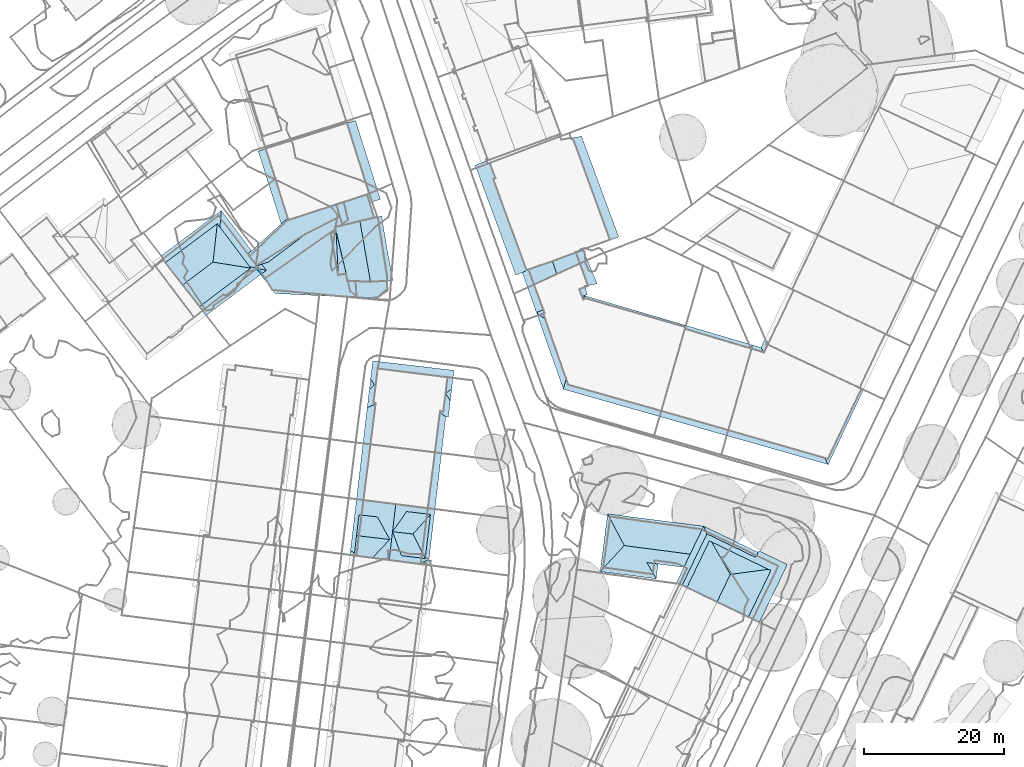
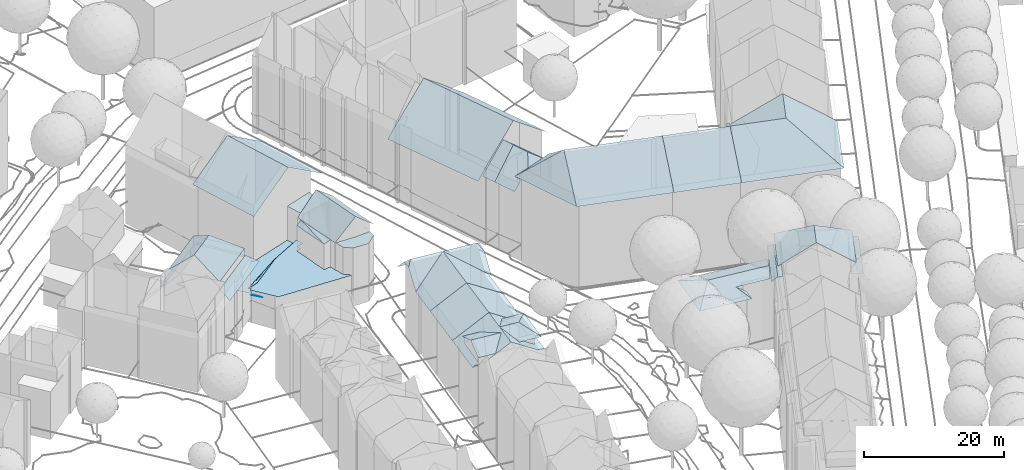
# Not in any storey, part 74 of 477: 21 roofs.
"""IFC4 building model written with IfcOpenShell, lengths in metres."""

from ifc_helpers import new_model, si_unit, frame, origin_with_axes, place, context, subcontext, project, spatial, polygons, element, save


model = new_model("IFC4")

# Units and contexts
model_context = context("Model", 3, precision=1e-05, world=origin_with_axes())
body_context = subcontext(model_context, "Body", "Model", "MODEL_VIEW")
ifc_project = project(units=[si_unit("AREAUNIT", "SQUARE_METRE"), si_unit("LENGTHUNIT", "METRE")], contexts=[model_context])

# Sites, building
site_1_placement = place(None, origin_with_axes())
site_1 = spatial("IfcSite", under=ifc_project, at=site_1_placement, Name="Topoexport Site")
site_2_placement = place(site_1_placement, origin_with_axes())
site_2 = spatial("IfcSite", under=site_1, at=site_2_placement, Name="TPX_BUILDINGS")
building_1_placement = place(site_2_placement, frame((497.3297320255, 81.7703160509, 498.9665), z_axis=(0.0, 0.0, 1.0), x_axis=(1.0, 0.0, 0.0)))
building_1 = spatial("IfcBuilding", under=site_2, at=building_1_placement, Name="Building 13", CompositionType="ELEMENT")

# Roofs
roof_1_placement = place(None, frame((497.3297320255, 81.7703160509, 498.9665), z_axis=(0.0, 0.0, 1.0), x_axis=(1.0, 0.0, 0.0)))
element("IfcRoof", 1, at=roof_1_placement, inside=building_1, Name="Roof 0", context=body_context, shape_type="Tessellation", body=[
    polygons([(7.0950000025, -0.8056999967, 11.5669), (2.9840000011, 3.1582000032, 13.1607), (6.2120000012, 0.7344000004, 12.2968), (7.5419999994, -1.5858999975, 11.1979), (6.9140000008, -0.931599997, 11.4689), (7.8139999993, 0.5263999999, 12.2968), (7.2840000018, 0.5957000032, 12.2968), (7.8139999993, 0.5263999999, 11.1979), (7.2840000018, 0.5957000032, 11.5619), (6.5040000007, 0.6963, 12.0968), (-0.4529999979, -0.5546999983, 11.1979), (0.0540000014, -0.0067999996, 11.4879), (0.6110000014, 7.6963, 11.1979), (0.9920000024, 6.9688000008, 11.5129), (14.319000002, 5.9297000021, 11.1979), (12.9900000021, 5.6045000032, 11.4279), (12.3940000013, 1.9346000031, 13.1607), (11.5140000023, 0.1094000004, 12.3228), (11.4880000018, 0.0537, 12.2968)], [[[3, 2, 1]], [[5, 4, 1]], [[5, 1, 2]], [[7, 6, 2]], [[2, 3, 7]], [[4, 8, 1]], [[1, 8, 9]], [[10, 3, 1]], [[10, 1, 9]], [[12, 11, 5]], [[12, 5, 2]], [[5, 11, 4]], [[14, 13, 12]], [[12, 2, 14]], [[11, 12, 13]], [[16, 15, 13]], [[14, 2, 16]], [[13, 14, 16]], [[16, 2, 17]], [[16, 17, 15]], [[19, 18, 2]], [[2, 6, 19]], [[2, 18, 17]]]),
])
roof_2_placement = place(None, frame((497.3297320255, 81.7703160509, 498.9665), z_axis=(0.0, 0.0, 1.0), x_axis=(1.0, 0.0, 0.0)))
element("IfcRoof", 2, at=roof_2_placement, inside=building_1, Name="Roof 1", context=body_context, shape_type="Tessellation", body=[
    polygons([(21.8320000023, 1.6797000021, 14.0666), (21.7360000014, 1.4785000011, 14.2666), (14.7829999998, 4.8262000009, 14.2666), (14.6390000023, 5.1670000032, 14.0466), (21.8530000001, 1.7226999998, 14.0236), (22.0789999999, 2.1914000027, 13.5567), (14.319000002, 5.9297000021, 13.5567), (15.1330000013, 3.8252000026, 14.2666), (11.9240000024, -2.8388999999, 14.2666), (11.2479999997, -2.5136999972, 14.2666), (22.2730000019, -7.8125, 14.2666), (20.6960000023, -7.0546999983, 14.2666), (23.9020000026, -0.3983999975, 14.2666), (22.1889999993, 2.4219000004, 14.2666), (26.2580000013, 0.4609000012, 14.2666), (10.9480000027, -2.369099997, 14.0036), (11.5160000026, 0.1104000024, 13.5567), (10.9070000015, -2.3632999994, 13.9726), (10.3610000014, -2.2861000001, 13.5567), (14.0810000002, 5.4346000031, 13.5567)], [[[3, 2, 1]], [[1, 5, 4]], [[6, 4, 5]], [[4, 6, 7]], [[3, 1, 4]], [[10, 9, 8]], [[10, 8, 3]], [[2, 3, 8]], [[13, 12, 11]], [[13, 14, 2]], [[15, 14, 13]], [[13, 2, 8]], [[13, 11, 15]], [[16, 10, 3]], [[19, 18, 17]], [[16, 4, 18]], [[4, 17, 18]], [[20, 17, 4]], [[7, 20, 4]], [[4, 16, 3]]]),
])
roof_3_placement = place(None, frame((497.3297320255, 81.7703160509, 498.9665), z_axis=(0.0, 0.0, 1.0), x_axis=(1.0, 0.0, 0.0)))
element("IfcRoof", 3, at=roof_3_placement, inside=building_1, Name="Roof 2", context=body_context, shape_type="Tessellation", body=[
    polygons([(23.5510000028, -0.2294999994, 16.8863), (21.3720000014, -7.3798999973, 16.1304), (20.6960000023, -7.0546999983, 16.6283), (18.1119999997, -0.9569999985, 19.927), (16.2129999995, -4.8993999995, 19.927), (24.9030000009, -0.0487999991, 16.1304), (11.2479999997, -2.5136999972, 16.1304), (14.7829999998, 4.8262000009, 16.1304), (15.4460000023, 3.6748000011, 16.8863), (11.9240000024, -2.8388999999, 16.6474), (21.7360000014, 1.4785000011, 16.1304), (21.0140000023, 0.9932000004, 16.8863)], [[[3, 2, 1]], [[5, 3, 4]], [[1, 4, 3]], [[6, 1, 2]], [[9, 8, 7]], [[4, 9, 10]], [[4, 10, 5]], [[10, 9, 7]], [[12, 11, 9]], [[9, 4, 12]], [[8, 9, 11]], [[12, 4, 1]], [[12, 6, 11]], [[6, 12, 1]]]),
])

# Building
building_2_placement = place(site_2_placement, frame((461.8007320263, 83.4783160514, 499.4055), z_axis=(0.0, 0.0, 1.0), x_axis=(1.0, 0.0, 0.0)))
building_2 = spatial("IfcBuilding", under=site_2, at=building_2_placement, Name="Building 54", CompositionType="ELEMENT")

# Roofs
roof_4_placement = place(None, frame((461.8007320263, 83.4783160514, 499.4055), z_axis=(0.0, 0.0, 1.0), x_axis=(1.0, 0.0, 0.0)))
element("IfcRoof", 4, at=roof_4_placement, inside=building_2, Name="Roof 0", context=body_context, shape_type="Tessellation", body=[
    polygons([(10.8610000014, 5.9033000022, 13.9566), (10.1209999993, -0.3915999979, 13.9566), (9.5089999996, 0.8262000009, 14.3076), (8.3709999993, 3.0938000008, 14.9615), (9.9910000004, 4.9209000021, 14.3076), (5.443, 3.438500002, 14.9525), (6.9670000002, 5.6055000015, 14.1996), (7.4580000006, 6.3037, 13.9566), (6.425999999, 0.7989000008, 14.1856), (6.7199999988, 0.0088, 13.9566)], [[[3, 2, 1]], [[5, 4, 3]], [[1, 5, 3]], [[7, 6, 1]], [[5, 6, 4]], [[7, 1, 8]], [[1, 6, 5]], [[6, 9, 4]], [[4, 9, 3]], [[10, 2, 3]], [[10, 3, 9]]]),
])
roof_5_placement = place(None, frame((461.8007320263, 83.4783160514, 499.4055), z_axis=(0.0, 0.0, 1.0), x_axis=(1.0, 0.0, 0.0)))
element("IfcRoof", 5, at=roof_5_placement, inside=building_2, Name="Roof 1", context=body_context, shape_type="Tessellation", body=[
    polygons([(2.6339999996, -0.2421999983, 13.5367), (0.313000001, 2.8731000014, 14.7936), (5.0480000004, 2.3164000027, 14.7936), (0.0080000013, 0.0655000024, 13.5367), (-0.0170000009, 0.0683999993, 13.5367), (1.0560000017, 5.8027999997, 13.5367), (0.6620000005, 5.8487000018, 13.5367), (4.6330000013, 3.0742000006, 14.4976), (3.300999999, 5.5391000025, 13.5367), (4.6160000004, 7.4951000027, 14.1796), (5.9039999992, 7.3311000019, 14.9505), (5.443, 3.438500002, 14.9525), (1.0560000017, 5.8027999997, 12.1878), (0.2989999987, 8.0439999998, 11.5829), (1.3229999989, 7.9131000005, 12.1988), (-0.5590000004, 0.7412, 11.5829), (2.9679999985, 5.5780999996, 13.3367), (4.9730000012, -0.6435000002, 14.9465), (0.4750000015, 1.2061000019, 12.1638), (0.2300000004, 0.2237000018, 12.0838), (0.7069999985, -0.0918000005, 12.3868), (2.3000000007, -0.2040999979, 13.3367), (0.569000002, -0.0009999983, 12.2988), (0.3489999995, 0.2071000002, 12.1558), (7.300999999, 5.5664000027, 13.9996), (6.1099999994, 3.8740000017, 14.5876), (5.7749999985, 3.3993999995, 14.7536), (6.0560000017, 2.6504000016, 14.5336), (10.0289999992, 5.246100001, 12.3588), (8.4849999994, 5.4277999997, 13.2867), (11.4979999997, 6.6220999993, 11.5829), (10.6519999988, -0.5760999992, 11.5828), (6.4120000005, 1.7050999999, 14.2576), (6.7589999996, 0.759800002, 13.9856), (7.6070000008, 0.6572000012, 13.4747), (9.0280000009, -1.1699000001, 12.5048), (8.0520000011, 0.6055000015, 13.2077), (9.4640000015, 0.4405000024, 12.3588), (9.5230000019, -0.9912, 12.2248), (0.0080000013, 0.0655000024, 12.2988), (-0.6359999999, 0.0821000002, 12.3678), (0.0320000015, 0.2481000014, 12.0808), (10.9290000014, -1.4169999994, 12.5328), (10.2780000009, -1.3319999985, 12.5228), (11.0219999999, -0.6191000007, 11.5828), (2.6400000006, -0.2430999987, 13.3407), (2.6339999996, -0.2421999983, 13.3367), (4.9730000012, -0.6436999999, 14.7466)], [[[3, 2, 1]], [[1, 2, 4]], [[4, 2, 5]], [[7, 2, 6]], [[9, 2, 8]], [[6, 2, 9]], [[8, 2, 3]], [[12, 11, 10]], [[15, 14, 13]], [[13, 14, 16]], [[10, 15, 17]], [[13, 17, 15]], [[12, 8, 3]], [[8, 12, 9]], [[18, 3, 1]], [[12, 3, 18]], [[17, 9, 10]], [[12, 10, 9]], [[16, 20, 19]], [[19, 13, 16]], [[1, 22, 21]], [[1, 21, 18]], [[21, 22, 23]], [[20, 24, 19]], [[11, 26, 25]], [[26, 11, 12]], [[12, 27, 26]], [[27, 12, 28]], [[31, 30, 29]], [[31, 11, 30]], [[11, 25, 30]], [[31, 29, 32]], [[33, 28, 18]], [[35, 34, 18]], [[18, 34, 33]], [[35, 18, 36]], [[28, 12, 18]], [[38, 37, 36]], [[38, 39, 32]], [[39, 38, 36]], [[37, 35, 36]], [[38, 32, 29]], [[21, 23, 40]], [[21, 40, 41]], [[16, 42, 20]], [[16, 40, 42]], [[40, 16, 41]], [[44, 43, 32]], [[32, 43, 45]], [[39, 36, 44]], [[32, 39, 44]], [[48, 47, 46]]]),
])

# Building
building_3_placement = place(site_2_placement, frame((463.1237320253, 91.3914160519, 499.4055), z_axis=(0.0, 0.0, 1.0), x_axis=(1.0, 0.0, 0.0)))
building_3 = spatial("IfcBuilding", under=site_2, at=building_3_placement, Name="Building 55", CompositionType="ELEMENT")

# Roof
roof_6_placement = place(None, frame((463.1237320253, 91.3914160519, 499.4055), z_axis=(0.0, 0.0, 1.0), x_axis=(1.0, 0.0, 0.0)))
element("IfcRoof", 6, at=roof_6_placement, inside=building_3, Name="Roof 0", context=body_context, shape_type="Tessellation", body=[
    polygons([(4.5810000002, -0.5810000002, 14.9505), (1.6009999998, 7.875, 12.5998), (5.5230000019, 7.3867000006, 14.9476), (3.2930000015, -0.4179999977, 14.1796), (9.182, -1.1649999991, 12.1808), (10.1750000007, -1.2910000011, 11.5829), (10.1920000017, 6.8047000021, 12.1368), (11.1119999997, 6.6895000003, 11.5829), (-1.0240000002, 0.1308999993, 11.5829), (-0.0889999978, 8.0888999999, 11.5829), (0.0, 0.0, 12.1988), (1.0050000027, 7.9501999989, 12.2408), (0.756000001, 7.9824000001, 12.0408), (0.2460000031, 8.0459000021, 11.6729)], [[[3, 2, 1]], [[4, 1, 2]], [[5, 3, 1]], [[7, 5, 6]], [[7, 3, 5]], [[7, 6, 8]], [[11, 10, 9]], [[12, 11, 4]], [[12, 10, 11]], [[2, 12, 4]], [[14, 12, 13]]]),
])

# Building
building_4_placement = place(site_2_placement, frame((464.128732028, 99.3416160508, 499.4055), z_axis=(0.0, 0.0, 1.0), x_axis=(1.0, 0.0, 0.0)))
building_4 = spatial("IfcBuilding", under=site_2, at=building_4_placement, Name="Building 61", CompositionType="ELEMENT")

# Roof
roof_7_placement = place(None, frame((464.128732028, 99.3416160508, 499.4055), z_axis=(0.0, 0.0, 1.0), x_axis=(1.0, 0.0, 0.0)))
element("IfcRoof", 7, at=roof_7_placement, inside=building_4, Name="Roof 0", context=body_context, shape_type="Tessellation", body=[
    polygons([(10.7149999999, 7.3154000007, 14.9436), (11.3640000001, 6.2295000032, 13.9347), (5.5219999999, 7.9248000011, 14.9436), (9.9100000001, 4.568400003, 12.1058), (11.0899999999, 3.9072000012, 11.5829), (10.7190000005, 3.9502000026, 11.5829), (-0.0050000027, 9.3984000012, 14.1346), (11.568, 7.9678000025, 14.2026), (11.8779999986, 10.5986000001, 11.5829), (0.5119999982, 8.5137000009, 14.9436), (0.2949999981, 11.9600000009, 11.5829), (-0.1950000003, 7.7920000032, 14.1396), (0.7339999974, 5.8096000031, 12.2678), (-0.4910000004, 5.2675999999, 11.5829), (0.5969999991, -0.0741999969, 12.5998), (0.2229999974, 1.7637000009, 12.2498), (4.5179999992, -0.5625, 14.9476), (9.186999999, -1.1454999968, 12.1368), (10.106999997, -1.2606999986, 11.5829), (-1.0940000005, 0.1387000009, 11.5829), (0.0, 0.0, 12.2408)], [[[3, 2, 1]], [[2, 3, 4]], [[4, 6, 5]], [[4, 5, 2]], [[3, 8, 7]], [[3, 1, 8]], [[8, 9, 7]], [[7, 10, 3]], [[7, 9, 11]], [[14, 13, 12]], [[12, 13, 3]], [[3, 10, 12]], [[17, 16, 15]], [[16, 17, 13]], [[16, 13, 14]], [[13, 17, 3]], [[4, 3, 17]], [[6, 4, 18]], [[18, 19, 6]], [[17, 18, 4]], [[16, 14, 20]], [[21, 15, 16]], [[21, 16, 20]], [[2, 8, 1]], [[7, 12, 10]]]),
])

# Building
building_5_placement = place(site_2_placement, frame((449.1887320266, 141.5721160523, 498.8726), z_axis=(0.0, 0.0, 1.0), x_axis=(1.0, 0.0, 0.0)))
building_5 = spatial("IfcBuilding", under=site_2, at=building_5_placement, Name="Building 71", CompositionType="ELEMENT")

# Roof
roof_8_placement = place(None, frame((449.1887320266, 141.5721160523, 498.8726), z_axis=(0.0, 0.0, 1.0), x_axis=(1.0, 0.0, 0.0)))
element("IfcRoof", 8, at=roof_8_placement, inside=building_5, Name="Roof 0", context=body_context, shape_type="Tessellation", body=[
    polygons([(9.4019999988, -9.4072999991, 18.8312), (9.0549999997, -8.308600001, 18.8312), (16.3289999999, -7.2236999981, 14.0316), (11.5839999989, 3.6523000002, 14.8606), (5.8530000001, 1.8456999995, 18.8312), (12.7800000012, 4.0293000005, 14.0317), (2.4400000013, -11.6035000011, 14.0317), (0.0, 0.0, 14.7966), (4.1420000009, 1.3055999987, 17.6513), (-1.1090000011, -0.3506000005, 14.0317)], [[[3, 2, 1]], [[2, 3, 4]], [[4, 5, 2]], [[3, 6, 4]], [[9, 8, 7]], [[5, 9, 2]], [[7, 2, 9]], [[1, 2, 7]], [[7, 8, 10]]]),
])

# Building
building_6_placement = place(site_2_placement, frame((446.8647320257, 126.2293160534, 498.9746), z_axis=(0.0, 0.0, 1.0), x_axis=(1.0, 0.0, 0.0)))
building_6 = spatial("IfcBuilding", under=site_2, at=building_6_placement, Name="Building 73", CompositionType="ELEMENT")

# Roofs
roof_9_placement = place(None, frame((446.8647320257, 126.2293160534, 498.9746), z_axis=(0.0, 0.0, 1.0), x_axis=(1.0, 0.0, 0.0)))
element("IfcRoof", 9, at=roof_9_placement, inside=building_6, Name="Roof 0", context=body_context, shape_type="Tessellation", body=[
    polygons([(13.5, -5.8047000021, 5.8744), (15.2950000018, -5.7412, 5.8744), (15.3060000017, -5.8905999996, 5.8744), (13.9420000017, -3.5371000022, 5.8744), (14.3969999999, -5.0459000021, 5.8744), (14.0300000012, -3.5419999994, 5.8744), (12.6410000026, -2.6982000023, 5.8744), (3.6190000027, -5.3330000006, 5.8744), (7.9330000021, 3.1122999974, 5.8744), (13.7829999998, -2.5303000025, 5.8744), (0.9560000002, -1.8544999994, 5.8744), (1.2530000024, -1.625, 5.8744), (12.2060000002, 4.1317999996, 5.8744), (12.3340000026, 3.4003999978, 5.8744), (11.5960000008, 3.2714999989, 5.8744), (12.9100000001, 5.6386999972, 5.8744), (13.2910000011, 4.3905999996, 5.8744), (1.0100000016, -1.3066000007, 5.8744)], [[[3, 2, 1]], [[1, 5, 4]], [[5, 1, 2]], [[6, 4, 5]], [[9, 8, 7]], [[10, 7, 4]], [[4, 7, 1]], [[1, 7, 8]], [[12, 11, 8]], [[15, 14, 13]], [[9, 7, 15]], [[8, 9, 12]], [[17, 16, 13]], [[9, 13, 16]], [[13, 9, 15]], [[18, 12, 9]]]),
])
roof_10_placement = place(None, frame((446.8647320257, 126.2293160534, 498.9746), z_axis=(0.0, 0.0, 1.0), x_axis=(1.0, 0.0, 0.0)))
element("IfcRoof", 10, at=roof_10_placement, inside=building_6, Name="Roof 1", context=body_context, shape_type="Tessellation", body=[
    polygons([(17.8020000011, 5.4668000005, 10.8799), (13.2910000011, 4.3905999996, 10.8799), (12.3839999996, 7.3612999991, 10.8799), (16.7880000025, 8.7919999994, 10.8799)], [[[3, 2, 1]], [[3, 1, 4]]]),
])
roof_11_placement = place(None, frame((446.8647320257, 126.2293160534, 498.9746), z_axis=(0.0, 0.0, 1.0), x_axis=(1.0, 0.0, 0.0)))
element("IfcRoof", 11, at=roof_11_placement, inside=building_6, Name="Roof 2", context=body_context, shape_type="Tessellation", body=[
    polygons([(1.0650000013, -1.3789000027, 5.8744), (7.9330000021, 3.1122999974, 5.8744), (2.7270000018, -0.7979000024, 5.8744), (1.0100000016, -1.3066000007, 5.8744)], [[[3, 2, 1]], [[1, 2, 4]]]),
])
roof_12_placement = place(None, frame((446.8647320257, 126.2293160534, 498.9746), z_axis=(0.0, 0.0, 1.0), x_axis=(1.0, 0.0, 0.0)))
element("IfcRoof", 12, at=roof_12_placement, inside=building_6, Name="Roof 3", context=body_context, shape_type="Tessellation", body=[
    polygons([(2.2300000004, -3.1816000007, 4.9995), (2.2050000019, -3.1992000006, 4.9995), (1.006000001, -1.8154000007, 4.9995), (1.2600000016, -1.6699000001, 4.9995), (1.2530000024, -1.625, 4.9995)], [[[3, 2, 1]], [[3, 1, 4]], [[5, 3, 4]]]),
])
roof_13_placement = place(None, frame((446.8647320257, 126.2293160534, 498.9746), z_axis=(0.0, 0.0, 1.0), x_axis=(1.0, 0.0, 0.0)))
element("IfcRoof", 13, at=roof_13_placement, inside=building_6, Name="Roof 4", context=body_context, shape_type="Tessellation", body=[
    polygons([(6.7109999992, 5.5175999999, 4.9995), (-0.2479999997, 0.3398000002, 4.9995), (5.5620000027, 5.1444999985, 4.9995), (1.0080000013, -1.3076000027, 4.9995), (0.5140000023, -0.6581999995, 4.9995), (7.9330000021, 3.1122999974, 4.9995), (5.4600000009, 5.4648000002, 4.9995), (12.3839999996, 7.3612999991, 4.9995), (12.9100000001, 5.6386999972, 4.9995)], [[[3, 2, 1]], [[6, 5, 4]], [[1, 2, 5]], [[3, 7, 2]], [[6, 9, 8]], [[8, 1, 6]], [[5, 6, 1]]]),
])
roof_14_placement = place(None, frame((446.8647320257, 126.2293160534, 498.9746), z_axis=(0.0, 0.0, 1.0), x_axis=(1.0, 0.0, 0.0)))
element("IfcRoof", 14, at=roof_14_placement, inside=building_6, Name="Roof 5", context=body_context, shape_type="Tessellation", body=[
    polygons([(19.0940000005, 0.5263999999, 11.9398), (15.7310000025, 4.9726999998, 14.0676), (18.8470000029, 2.1182000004, 11.9148), (19.5219999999, 1.5, 11.4479), (17.2440000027, -3.6895000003, 14.0676), (18.5840000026, 3.8134999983, 11.8978), (18.8489999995, 5.7245999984, 11.4479), (19.1760000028, 3.5722999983, 11.4479), (12.2060000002, 4.1317999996, 10.9209), (13.7829999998, -2.5303000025, 10.556), (12.3340000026, 3.4003999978, 10.9209), (12.6410000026, -2.6982000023, 10.268), (11.5960000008, 3.2714999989, 10.268), (19.5170000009, -2.1933999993, 10.556), (19.6220000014, -2.2129000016, 10.556), (19.6130000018, -2.8115000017, 10.556), (19.637000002, -3.5371000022, 10.5559), (17.2440000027, -3.6895000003, 10.556), (19.6750000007, -4.6504000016, 10.5559), (17.9519999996, -6.1152000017, 10.5559), (14.3969999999, -5.0459000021, 10.556), (14.0300000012, -3.5419999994, 10.556), (14.1300000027, -3.5469000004, 10.556), (15.5030000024, -5.9033000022, 10.556), (19.9039999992, -0.5928000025, 11.4479), (20.4629999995, -3.4854000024, 11.4479), (19.637000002, -3.5371000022, 12.1198), (13.9420000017, -3.5371000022, 10.556)], [[[3, 2, 1]], [[1, 4, 3]], [[5, 1, 2]], [[7, 2, 6]], [[8, 7, 6]], [[6, 2, 3]], [[6, 4, 8]], [[4, 6, 3]], [[10, 2, 9]], [[10, 9, 11]], [[11, 12, 10]], [[12, 11, 13]], [[16, 15, 14]], [[15, 16, 17]], [[20, 19, 18]], [[17, 19, 15]], [[17, 18, 19]], [[23, 22, 21]], [[18, 23, 21]], [[24, 20, 18]], [[21, 24, 18]], [[4, 1, 25]], [[25, 1, 5]], [[27, 26, 25]], [[5, 27, 25]], [[5, 10, 28]], [[5, 2, 10]]]),
])

# Building
building_7_placement = place(site_2_placement, frame((434.486732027, 125.7898160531, 500.0045), z_axis=(0.0, 0.0, 1.0), x_axis=(1.0, 0.0, 0.0)))
building_7 = spatial("IfcBuilding", under=site_2, at=building_7_placement, Name="Building 74", CompositionType="ELEMENT")

# Roofs
roof_15_placement = place(None, frame((434.486732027, 125.7898160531, 500.0045), z_axis=(0.0, 0.0, 1.0), x_axis=(1.0, 0.0, 0.0)))
element("IfcRoof", 15, at=roof_15_placement, inside=building_7, Name="Roof 0", context=body_context, shape_type="Tessellation", body=[
    polygons([(8.2419999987, 5.8652999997, 10.295), (14.748999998, -1.5868999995, 9.4911), (13.4769999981, -1.3037, 10.429), (8.1330000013, 4.5751999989, 11.2489), (12.3649999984, -1.057599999, 11.2489), (8.3339999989, 6.9521999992, 9.4911), (0.0, 0.0, 10.036), (7.754999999, 5.0790999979, 10.626), (-0.3390000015, 0.4355999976, 9.4911), (0.3669999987, -0.4715999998, 10.626), (5.7010000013, -7.3418000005, 10.281), (5.2340000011, -6.7412, 11.0019), (6.2139999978, -8.0, 9.4911), (12.5219999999, -1.2666000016, 11.0009), (5.9699999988, -7.6884000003, 9.7161), (5.7230000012, -7.3709999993, 10.225)], [[[3, 2, 1]], [[5, 3, 4]], [[3, 1, 4]], [[1, 2, 6]], [[8, 1, 7]], [[8, 4, 1]], [[1, 6, 7]], [[9, 7, 6]], [[7, 10, 8]], [[3, 12, 11]], [[2, 11, 13]], [[3, 14, 12]], [[5, 14, 3]], [[3, 11, 2]], [[16, 15, 11]]]),
])
roof_16_placement = place(None, frame((434.486732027, 125.7898160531, 500.0045), z_axis=(0.0, 0.0, 1.0), x_axis=(1.0, 0.0, 0.0)))
element("IfcRoof", 16, at=roof_16_placement, inside=building_7, Name="Roof 1", context=body_context, shape_type="Tessellation", body=[
    polygons([(2.8359999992, -3.6513000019, 15.9985), (7.754999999, 5.0790999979, 12.3068), (7.1429999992, -0.4149999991, 15.9985), (0.3669999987, -0.4715999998, 12.3068), (5.2349999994, -6.7402000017, 12.3068), (12.5219999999, -1.2666000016, 12.3068)], [[[3, 2, 1]], [[4, 1, 2]], [[1, 5, 3]], [[6, 3, 5]], [[6, 2, 3]]]),
])

# Building
building_8_placement = place(site_2_placement, frame((487.4747320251, 122.1688160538, 499.2035), z_axis=(0.0, 0.0, 1.0), x_axis=(1.0, 0.0, 0.0)))
building_8 = spatial("IfcBuilding", under=site_2, at=building_8_placement, Name="Building 122", CompositionType="ELEMENT")

# Roof
roof_17_placement = place(None, frame((487.4747320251, 122.1688160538, 499.2035), z_axis=(0.0, 0.0, 1.0), x_axis=(1.0, 0.0, 0.0)))
element("IfcRoof", 17, at=roof_17_placement, inside=building_8, Name="Roof 0", context=body_context, shape_type="Tessellation", body=[
    polygons([(4.068, -1.1172000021, 16.3534), (6.0670000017, -1.9502000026, 15.1266), (3.0880000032, -2.9942000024, 15.1116), (7.2820000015, -0.2120000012, 13.3967), (7.131000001, -0.4268000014, 13.6107), (6.6340000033, -1.1387000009, 14.3186), (7.268000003, -0.3780000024, 13.4597), (7.1680000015, -1.5645000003, 13.9137), (6.8380000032, -1.6797000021, 14.2776), (6.2380000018, -1.889700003, 14.9386), (7.3110000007, -0.3624000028, 13.4137), (7.518000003, -1.443400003, 13.5397), (0.0, 0.0, 13.3597), (0.2930000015, -3.9717000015, 12.5198), (-0.9479999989, -0.4327000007, 12.4748), (1.2060000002, -3.2823000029, 13.4467), (1.1850000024, 0.5418999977, 14.4666), (2.8800000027, -3.067400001, 14.9186), (1.3260000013, -3.6104000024, 13.4777), (3.2160000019, 1.4706999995, 16.3534), (5.9079999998, 2.7010999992, 13.7527), (7.200000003, 1.2010999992, 13.0778), (6.5460000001, 2.9930999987, 13.1358), (7.0810000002, 3.2381999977, 12.6178), (8.9880000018, 0.1209999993, 12.1738), (7.6860000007, -0.1328999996, 13.1068), (7.5910000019, 3.4706999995, 12.2158), (7.0670000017, -2.1124000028, 15.6325), (6.8380000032, -1.6797000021, 15.1806), (7.1680000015, -1.5645000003, 15.2035), (5.9370000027, -8.2120000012, 20.415), (1.3260000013, -3.6104000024, 15.1696), (1.6060000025, -4.9581000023, 16.4154), (0.2930000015, -3.9717000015, 15.2036), (7.9940000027, -15.1963, 15.8085), (4.5580000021, -13.3887000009, 16.3984), (18.7540000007, -15.9415000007, 17.5013), (19.8289999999, -12.2071000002, 20.415), (4.1469999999, -14.9288000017, 15.2035), (17.9180000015, -18.8438000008, 15.2035), (18.1469999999, -18.0508000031, 15.8315), (21.5870000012, -6.1016000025, 15.4225), (21.6650000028, -5.8300999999, 15.2035), (20.8560000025, -8.6416999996, 17.4713)], [[[3, 2, 1]], [[5, 4, 1]], [[6, 1, 2]], [[1, 6, 5]], [[4, 5, 7]], [[9, 8, 7]], [[7, 5, 6]], [[6, 2, 10]], [[10, 9, 6]], [[6, 9, 7]], [[11, 4, 7]], [[7, 8, 12]], [[7, 12, 11]], [[15, 14, 13]], [[13, 14, 16]], [[16, 17, 13]], [[17, 16, 1]], [[1, 18, 3]], [[18, 1, 19]], [[16, 14, 19]], [[16, 19, 1]], [[1, 21, 20]], [[17, 1, 20]], [[23, 21, 22]], [[24, 23, 22]], [[22, 1, 4]], [[1, 22, 21]], [[26, 25, 22]], [[4, 26, 22]], [[25, 24, 22]], [[24, 25, 27]], [[30, 29, 28]], [[31, 28, 29]], [[31, 29, 2]], [[31, 2, 3]], [[33, 31, 32]], [[32, 34, 33]], [[32, 31, 3]], [[37, 36, 35]], [[31, 37, 38]], [[36, 39, 35]], [[31, 36, 37]], [[35, 39, 40]], [[41, 37, 35]], [[41, 35, 40]], [[28, 31, 42]], [[30, 28, 43]], [[42, 43, 28]], [[42, 31, 44]], [[44, 31, 38]], [[33, 34, 39]], [[33, 36, 31]], [[36, 33, 39]]]),
])

# Building
building_9_placement = place(site_2_placement, frame((515.185732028, 101.369916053, 499.2035), z_axis=(0.0, 0.0, 1.0), x_axis=(1.0, 0.0, 0.0)))
building_9 = spatial("IfcBuilding", under=site_2, at=building_9_placement, Name="Building 124", CompositionType="ELEMENT")

# Roof
roof_18_placement = place(None, frame((515.185732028, 101.369916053, 499.2035), z_axis=(0.0, 0.0, 1.0), x_axis=(1.0, 0.0, 0.0)))
element("IfcRoof", 18, at=roof_18_placement, inside=building_9, Name="Roof 0", context=body_context, shape_type="Tessellation", body=[
    polygons([(13.731999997, -3.9717000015, 15.7614), (14.7649999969, -2.9169999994, 15.4455), (14.231999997, -4.876000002, 15.2035), (9.5669999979, 3.5742000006, 20.415), (12.2129999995, 9.0947999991, 20.415), (17.373999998, 6.6651000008, 16.6324), (19.2609999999, 5.7763999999, 15.2035), (18.9919999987, 5.9023999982, 15.4065), (1.6730000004, 5.8438000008, 20.415), (1.1889999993, 4.1543000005, 19.0971), (0.0, 0.0, 15.8104), (-0.2190000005, -0.7675999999, 15.2035), (3.1409999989, 11.9307000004, 15.4515), (2.9729999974, 12.3134999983, 15.2035), (3.4059999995, 11.9003999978, 15.4165), (4.6359999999, 11.8251999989, 15.2035), (5.0739999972, 11.0927999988, 15.6665), (3.3249999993, 11.6152999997, 15.6515), (5.2579999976, 13.123999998, 15.2035), (5.3609999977, 12.3202999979, 15.4895), (5.5109999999, 12.5410000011, 15.5155), (5.6270000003, 12.1952999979, 15.6805)], [[[3, 2, 1]], [[1, 2, 4]], [[4, 6, 5]], [[6, 4, 2]], [[2, 3, 7]], [[8, 6, 2]], [[7, 8, 2]], [[10, 4, 9]], [[11, 4, 10]], [[1, 11, 12]], [[1, 4, 11]], [[3, 1, 12]], [[15, 14, 13]], [[14, 15, 16]], [[4, 17, 9]], [[9, 17, 18]], [[16, 15, 18]], [[16, 18, 17]], [[16, 20, 19]], [[20, 16, 17]], [[21, 19, 20]], [[17, 4, 22]], [[5, 22, 4]], [[17, 22, 20]]]),
])

# Building
building_10_placement = place(site_2_placement, frame((505.6217320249, 104.1180160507, 499.2035), z_axis=(0.0, 0.0, 1.0), x_axis=(1.0, 0.0, 0.0)))
building_10 = spatial("IfcBuilding", under=site_2, at=building_10_placement, Name="Building 126", CompositionType="ELEMENT")

# Roof
roof_19_placement = place(None, frame((505.6217320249, 104.1180160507, 499.2035), z_axis=(0.0, 0.0, 1.0), x_axis=(1.0, 0.0, 0.0)))
element("IfcRoof", 19, at=roof_19_placement, inside=building_10, Name="Roof 0", context=body_context, shape_type="Tessellation", body=[
    polygons([(11.2370000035, 3.0957000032, 20.415), (0.6070000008, 2.1093000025, 17.5013), (1.682, 5.8437000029, 20.415), (10.7530000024, 1.4062000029, 19.0971), (0.0, 0.0, 15.8315), (9.564000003, -2.7480999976, 15.8104), (-0.2289999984, -0.7929999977, 15.2035), (9.3450000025, -3.5156999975, 15.2035), (12.5370000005, 9.5654000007, 15.2035), (2.7090000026, 9.4092000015, 17.4713), (3.3710000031, 11.7080000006, 15.6165), (3.518000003, 12.2207000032, 15.2035), (11.9700000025, 9.1406000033, 15.6435), (12.7050000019, 9.1826000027, 15.4515), (12.9700000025, 9.1523000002, 15.4155), (12.8890000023, 8.8672000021, 15.6515)], [[[3, 2, 1]], [[4, 1, 2]], [[6, 4, 5]], [[8, 6, 7]], [[5, 7, 6]], [[2, 5, 4]], [[11, 10, 9]], [[9, 12, 11]], [[9, 10, 13]], [[14, 9, 13]], [[15, 14, 13]], [[10, 1, 13]], [[1, 10, 3]], [[13, 16, 15]], [[16, 13, 1]]]),
])

# Building
building_11_placement = place(site_2_placement, frame((480.6997320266, 139.8172160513, 499.2146), z_axis=(0.0, 0.0, 1.0), x_axis=(1.0, 0.0, 0.0)))
building_11 = spatial("IfcBuilding", under=site_2, at=building_11_placement, Name="Building 195", CompositionType="ELEMENT")

# Roofs
roof_20_placement = place(None, frame((480.6997320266, 139.8172160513, 499.2146), z_axis=(0.0, 0.0, 1.0), x_axis=(1.0, 0.0, 0.0)))
element("IfcRoof", 20, at=roof_20_placement, inside=building_11, Name="Roof 0", context=body_context, shape_type="Tessellation", body=[
    polygons([(14.3660000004, -14.177699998, 12.2047), (13.8559999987, -14.4101999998, 12.6067), (13.7569999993, -12.7177999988, 12.2237), (12.7490000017, -13.0888999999, 13.1727), (12.887000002, -14.8544999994, 13.5446), (11.2459999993, -15.6034999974, 15.1305), (9.3830000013, -14.3280999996, 16.3423), (11.5080000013, -13.5458999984, 14.3405), (9.9910000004, -16.177699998, 16.3423), (6.7749999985, -17.6483999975, 13.3486), (5.8269999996, -18.0810999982, 12.4637), (5.7109999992, -15.6210999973, 13.0357), (7.449000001, -14.9941999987, 14.6035), (5.9919999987, -15.5165999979, 13.2906), (5.0720000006, -15.9287, 12.4357), (5.5089999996, -15.6963, 12.8527), (7.9600000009, -17.1064999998, 14.4555), (7.4759999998, -14.9706999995, 14.6325), (7.4759999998, -14.9706999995, 14.4325), (7.4600000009, -14.990199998, 14.4145)], [[[3, 2, 1]], [[3, 4, 2]], [[5, 2, 4]], [[8, 7, 6]], [[6, 5, 8]], [[9, 6, 7]], [[8, 5, 4]], [[12, 11, 10]], [[14, 10, 13]], [[12, 10, 14]], [[11, 16, 15]], [[16, 11, 12]], [[17, 9, 7]], [[17, 7, 18]], [[18, 13, 17]], [[17, 13, 10]], [[19, 14, 13]], [[12, 14, 20]]]),
])
roof_21_placement = place(None, frame((480.6997320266, 139.8172160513, 499.2146), z_axis=(0.0, 0.0, 1.0), x_axis=(1.0, 0.0, 0.0)))
element("IfcRoof", 21, at=roof_21_placement, inside=building_11, Name="Roof 1", context=body_context, shape_type="Tessellation", body=[
    polygons([(4.0760000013, 1.4844000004, 16.8983), (5.7789999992, 2.1064000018, 18.3592), (7.4759999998, -14.9706999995, 14.9875), (11.5080000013, -13.5458999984, 18.4321), (9.3830000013, -14.3280999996, 16.6083), (10.6590000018, 3.0088, 14.4156), (10.3189999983, 3.754900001, 14.4626), (18.8319999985, -10.8574000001, 12.1377), (12.0729999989, 3.2705000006, 13.2737), (12.75, -13.0898999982, 17.3642), (13.5210000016, 3.5381000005, 12.1028), (1.818, -4.9560999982, 13.4906), (-0.8139999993, -0.2978999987, 12.7937), (0.0, 0.0, 13.4767), (5.7100000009, -15.6171999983, 13.4736), (5.9919999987, -15.5165999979, 13.7146), (4.1220000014, -16.2861000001, 12.0878), (5.5089999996, -15.6963, 13.2996), (5.0720000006, -15.9287, 12.9047), (-1.6640000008, -0.6171999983, 11.9748)], [[[3, 2, 1]], [[2, 5, 4]], [[5, 2, 3]], [[7, 2, 6]], [[9, 6, 8]], [[2, 10, 6]], [[8, 6, 10]], [[11, 9, 8]], [[10, 2, 4]], [[12, 3, 1]], [[12, 14, 13]], [[14, 12, 1]], [[16, 12, 15]], [[16, 3, 12]], [[12, 13, 17]], [[19, 18, 12]], [[18, 15, 12]], [[19, 12, 17]], [[17, 13, 20]]]),
])

save(model, "model.ifc")
